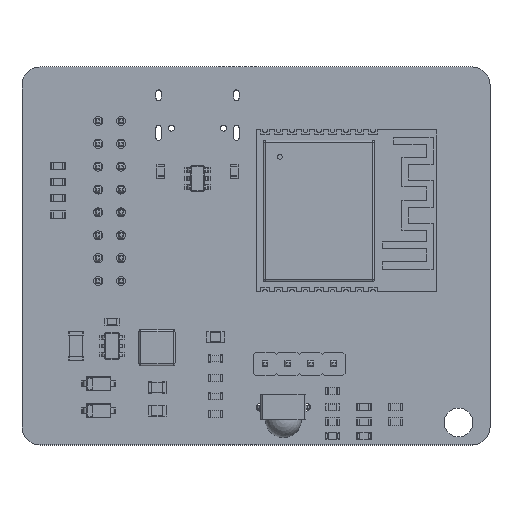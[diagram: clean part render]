
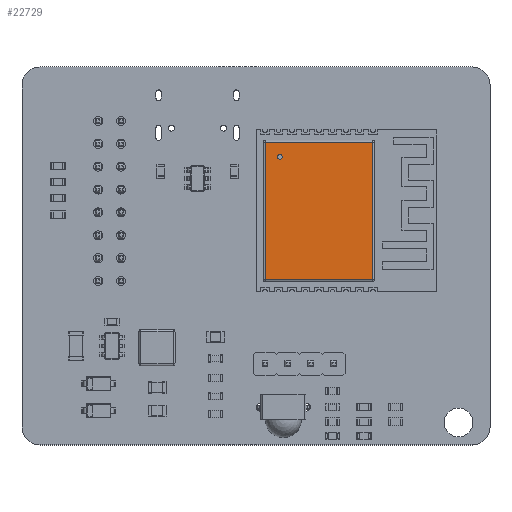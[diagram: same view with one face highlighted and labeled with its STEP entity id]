
A CAD part, top view. The second image highlights one B-rep face of the part: STEP entity #22729.
In plain terms, the highlighted planar face has unit normal (0, 0, 1).
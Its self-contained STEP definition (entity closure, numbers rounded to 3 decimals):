
#22553 = VERTEX_POINT('',#22554);
#22554 = CARTESIAN_POINT('',(-7.65,5.98,3.2));
#22561 = EDGE_CURVE('',#22553,#22562,#22564,.T.);
#22562 = VERTEX_POINT('',#22563);
#22563 = CARTESIAN_POINT('',(7.65,5.98,3.2));
#22564 = LINE('',#22565,#22566);
#22565 = CARTESIAN_POINT('',(-7.85,5.98,3.2));
#22566 = VECTOR('',#22567,1.);
#22567 = DIRECTION('',(1.,0.,0.));
#22729 = ADVANCED_FACE('',(#22730,#22755),#22766,.T.);
#22730 = FACE_BOUND('',#22731,.T.);
#22731 = EDGE_LOOP('',(#22732,#22740,#22741,#22749));
#22732 = ORIENTED_EDGE('',*,*,#22733,.F.);
#22733 = EDGE_CURVE('',#22562,#22734,#22736,.T.);
#22734 = VERTEX_POINT('',#22735);
#22735 = CARTESIAN_POINT('',(7.65,-5.99,3.2));
#22736 = LINE('',#22737,#22738);
#22737 = CARTESIAN_POINT('',(7.65,6.18,3.2));
#22738 = VECTOR('',#22739,1.);
#22739 = DIRECTION('',(0.,-1.,0.));
#22740 = ORIENTED_EDGE('',*,*,#22561,.F.);
#22741 = ORIENTED_EDGE('',*,*,#22742,.F.);
#22742 = EDGE_CURVE('',#22743,#22553,#22745,.T.);
#22743 = VERTEX_POINT('',#22744);
#22744 = CARTESIAN_POINT('',(-7.65,-5.99,3.2));
#22745 = LINE('',#22746,#22747);
#22746 = CARTESIAN_POINT('',(-7.65,-6.19,3.2));
#22747 = VECTOR('',#22748,1.);
#22748 = DIRECTION('',(0.,1.,0.));
#22749 = ORIENTED_EDGE('',*,*,#22750,.F.);
#22750 = EDGE_CURVE('',#22734,#22743,#22751,.T.);
#22751 = LINE('',#22752,#22753);
#22752 = CARTESIAN_POINT('',(7.85,-5.99,3.2));
#22753 = VECTOR('',#22754,1.);
#22754 = DIRECTION('',(-1.,0.,0.));
#22755 = FACE_BOUND('',#22756,.T.);
#22756 = EDGE_LOOP('',(#22757));
#22757 = ORIENTED_EDGE('',*,*,#22758,.F.);
#22758 = EDGE_CURVE('',#22759,#22759,#22761,.T.);
#22759 = VERTEX_POINT('',#22760);
#22760 = CARTESIAN_POINT('',(-5.75,-4.34,3.2));
#22761 = CIRCLE('',#22762,0.25);
#22762 = AXIS2_PLACEMENT_3D('',#22763,#22764,#22765);
#22763 = CARTESIAN_POINT('',(-6.,-4.34,3.2));
#22764 = DIRECTION('',(0.,0.,1.));
#22765 = DIRECTION('',(1.,0.,-0.));
#22766 = PLANE('',#22767);
#22767 = AXIS2_PLACEMENT_3D('',#22768,#22769,#22770);
#22768 = CARTESIAN_POINT('',(0.,-0.005,3.2));
#22769 = DIRECTION('',(0.,0.,1.));
#22770 = DIRECTION('',(1.,0.,-0.));
